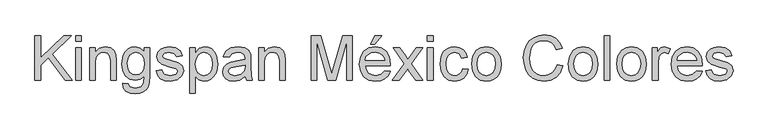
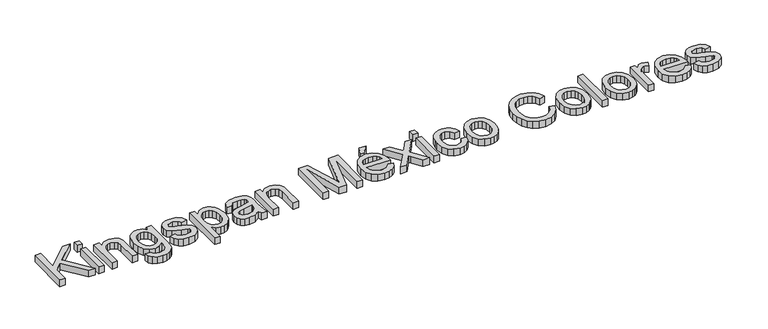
"""IFC4 building model written with IfcOpenShell, lengths in millimetres: proxy geometry, KIP-MX_ColourRange_Spanish : KIP-MX_ColourRange_English."""

from ifc_helpers import new_model, si_unit, origin, origin_with_axes, place, context, project, spatial, polyline, outline, extrude, source, transform, mapped, element, save


def generic_models_b1469a46(model_context):
    return source(origin(), model_context, "Body", "SweptSolid", [
        extrude(outline(polyline([(-1167.8046055, 2278.480545), (-1167.8046055, 2429.1650102), (-1148.9690473, 2429.1650102), (-1148.9690473, 2355.4046702), (-1071.7138283, 2429.1650102), (-1045.3734775, 2429.1650102), (-1110.2310732, 2367.2136822), (-1043.0190327, 2278.480545), (-1066.0484456, 2278.480545), (-1123.5851897, 2354.4849652), (-1148.9690473, 2330.2783299), (-1148.9690473, 2278.480545), (-1167.8046055, 2278.480545)])), origin_with_axes(), (0.0, 0.0, 1.0), 25.0),
        extrude(outline(polyline([(-1031.2468089, 2410.3294521), (-1031.2468089, 2429.1650102), (-1012.4112507, 2429.1650102), (-1012.4112507, 2410.3294521), (-1031.2468089, 2410.3294521)])), origin_with_axes(), (0.0, 0.0, 1.0), 25.0),
        extrude(outline(polyline([(-1031.2468089, 2278.480545), (-1031.2468089, 2389.1394492), (-1012.4112507, 2389.1394492), (-1012.4112507, 2278.480545), (-1031.2468089, 2278.480545)])), origin_with_axes(), (0.0, 0.0, 1.0), 25.0),
        extrude(outline(polyline([(-984.1579135, 2278.480545), (-984.1579135, 2389.1394492), (-965.3223553, 2389.1394492), (-965.3223553, 2373.6884054), (-950.9197752, 2387.0425218), (-931.2564826, 2391.4938939), (-913.4693881, 2387.9070445), (-901.3292823, 2378.4892654), (-895.6822937, 2364.6385083), (-894.6890123, 2346.4283495), (-894.6890123, 2278.480545), (-913.5245704, 2278.480545), (-913.5245704, 2343.8899637), (-915.6950742, 2360.5550181), (-923.3654138, 2369.3657919), (-936.2964659, 2372.6583358), (-947.3283273, 2370.8097287), (-956.7323108, 2365.2639077), (-963.1748442, 2354.5493446), (-965.3223553, 2337.1945114), (-965.3223553, 2278.480545), (-984.1579135, 2278.480545)])), origin_with_axes(), (0.0, 0.0, 1.0), 25.0),
        extrude(outline(polyline([(-873.4990093, 2269.0627659), (-854.6634512, 2266.7083212), (-848.5566101, 2256.7755073), (-830.2728749, 2252.5816525), (-810.9958584, 2257.3273303), (-801.7988085, 2270.6446585), (-800.5112215, 2292.6072136), (-813.7733674, 2282.0122122), (-829.9417811, 2278.480545), (-849.3613519, 2282.5916263), (-863.842107, 2294.9248702), (-872.8506173, 2313.0062703), (-875.8534541, 2334.3618201), (-870.4639829, 2363.5532564), (-863.8696981, 2375.4036552), (-854.8657863, 2384.2098304), (-843.7603486, 2389.672878), (-830.8614861, 2391.4938939), (-814.058476, 2387.3736156), (-800.5112215, 2375.0127805), (-800.5112215, 2389.1394492), (-781.6756634, 2389.1394492), (-781.6756634, 2293.600495), (-782.9632503, 2271.5413709), (-786.8260113, 2257.0146306), (-793.4800769, 2247.3807208), (-803.1415778, 2240.0000883), (-815.5989818, 2235.3095929), (-830.6407569, 2233.7460944), (-848.1657355, 2235.9487878), (-861.9659088, 2242.5568682), (-870.8180693, 2253.5887295), (-873.4990093, 2269.0627659)]), holes=[polyline([(-857.017896, 2335.6494071), (-855.0083406, 2318.3727489), (-848.9796744, 2306.4947589), (-839.9159817, 2299.6107671), (-828.8013469, 2297.3161032), (-817.7694856, 2299.5969715), (-808.6598077, 2306.4395766), (-802.5483681, 2318.1658152), (-800.5112215, 2335.0975841), (-802.6081489, 2351.4269461), (-808.898931, 2363.1853744), (-818.1419661, 2370.2900954), (-829.0956525, 2372.6583358), (-839.8516024, 2370.3268836), (-848.8693098, 2363.3325272), (-854.9807494, 2351.7488429), (-857.017896, 2335.6494071)])]), origin_with_axes(), (0.0, 0.0, 1.0), 25.0),
        extrude(outline(polyline([(-760.4856604, 2311.4427718), (-741.6501023, 2313.7972165), (-738.6794552, 2305.7406008), (-732.931299, 2299.8177007), (-712.9553067, 2294.9616584), (-693.7518665, 2299.4130305), (-687.4978726, 2309.8608792), (-689.0705681, 2314.6617392), (-693.7886547, 2318.3221651), (-713.1760358, 2323.6932422), (-741.5397377, 2332.9086862), (-753.9189668, 2343.6692345), (-758.1312157, 2358.8627609), (-754.7467013, 2372.8974591), (-745.5128632, 2383.6212192), (-733.5383043, 2389.1946315), (-717.3331024, 2391.4938939), (-694.4140541, 2387.7966799), (-679.8459271, 2377.7902896), (-673.371204, 2360.8861119), (-692.2067621, 2358.5316672), (-699.2884905, 2368.9243335), (-715.8615744, 2372.6583358), (-733.8877922, 2369.0898804), (-739.2956575, 2360.7757473), (-737.0515773, 2355.2943056), (-730.0250312, 2351.1372391), (-713.8014352, 2347.1273253), (-686.1551033, 2338.2613692), (-673.3160217, 2328.2181908), (-668.6623144, 2311.847442), (-674.1253621, 2293.8212242), (-689.8891056, 2280.7430193), (-713.212824, 2276.1261002), (-732.2047321, 2278.3517863), (-746.0646862, 2285.0288445), (-755.3169184, 2296.0836985), (-760.4856604, 2311.4427718)])), origin_with_axes(), (0.0, 0.0, 1.0), 25.0),
        extrude(outline(polyline([(-647.4723115, 2236.1005392), (-647.4723115, 2389.1394492), (-628.6367534, 2389.1394492), (-628.6367534, 2370.671773), (-615.6137307, 2386.2883637), (-598.0289714, 2391.4938939), (-585.2910573, 2389.672878), (-574.1534299, 2384.2098304), (-565.0851387, 2375.4358448), (-558.5552333, 2363.6820151), (-553.2945207, 2334.6561257), (-554.7798443, 2318.5474928), (-559.235815, 2304.1403142), (-566.5198785, 2292.1657552), (-576.4894805, 2283.3549814), (-588.100756, 2277.9333205), (-600.3098397, 2276.1261002), (-616.6989826, 2280.9637485), (-628.6367534, 2293.1958248), (-628.6367534, 2236.1005392), (-647.4723115, 2236.1005392)]), holes=[polyline([(-628.6367534, 2332.9270803), (-626.5996068, 2316.0412967), (-620.4881672, 2304.2322847), (-611.4704598, 2297.279315), (-600.7145099, 2294.9616584), (-589.7838161, 2297.3620884), (-580.5361825, 2304.5633785), (-574.2316048, 2316.8046519), (-572.1300789, 2334.3250319), (-574.181021, 2351.118845), (-580.3338474, 2363.0934039), (-589.3377592, 2370.2671028), (-599.9419577, 2372.6583358), (-610.587543, 2370.1153515), (-619.9363442, 2362.4863986), (-626.4616511, 2350.0106004), (-628.6367534, 2332.9270803)])]), origin_with_axes(), (0.0, 0.0, 1.0), 25.0),
        extrude(outline(polyline([(-461.4711747, 2292.6072136), (-479.7365158, 2279.8417084), (-499.9148432, 2276.1261002), (-515.6555941, 2278.3609834), (-527.2668696, 2285.0656327), (-534.4267729, 2295.2467669), (-536.8134074, 2307.9111046), (-533.2081638, 2322.8103254), (-523.7352024, 2333.6260561), (-510.5466329, 2339.8064736), (-494.2494605, 2342.639165), (-461.5815393, 2349.1138881), (-461.4711747, 2353.3077428), (-462.7679588, 2361.7138464), (-466.6583109, 2367.2136822), (-475.3587201, 2371.2971724), (-487.4804318, 2372.6583358), (-506.5367192, 2369.0346981), (-515.6234044, 2356.1772224), (-534.4589626, 2358.5316672), (-526.3103764, 2376.9257669), (-509.9028394, 2387.7047094), (-485.0524106, 2391.4938939), (-462.2253328, 2388.1461678), (-449.3310689, 2379.7400642), (-443.5553216, 2366.9561648), (-442.6356166, 2350.4750515), (-442.6356166, 2327.0409684), (-441.6791234, 2294.3178649), (-437.9267271, 2278.480545), (-456.7622852, 2278.480545), (-461.4711747, 2292.6072136)]), holes=[polyline([(-461.4711747, 2330.2783299), (-491.8582276, 2324.5025826), (-508.0634294, 2321.449162), (-515.4026752, 2316.4827551), (-517.9778492, 2309.2354798), (-512.3676488, 2299.0451485), (-495.9049295, 2294.9616584), (-476.8486421, 2299.4682128), (-464.5613835, 2310.375914), (-461.5815393, 2324.944041), (-461.4711747, 2330.2783299)])]), origin_with_axes(), (0.0, 0.0, 1.0), 25.0),
        extrude(outline(polyline([(-416.7367241, 2278.480545), (-416.7367241, 2389.1394492), (-397.901166, 2389.1394492), (-397.901166, 2373.6884054), (-383.4985859, 2387.0425218), (-363.8352932, 2391.4938939), (-346.0481988, 2387.9070445), (-333.9080929, 2378.4892654), (-328.2611043, 2364.6385083), (-327.2678229, 2346.4283495), (-327.2678229, 2278.480545), (-346.1033811, 2278.480545), (-346.1033811, 2343.8899637), (-348.2738848, 2360.5550181), (-355.9442244, 2369.3657919), (-368.8752766, 2372.6583358), (-379.9071379, 2370.8097287), (-389.3111214, 2365.2639077), (-395.7536548, 2354.5493446), (-397.901166, 2337.1945114), (-397.901166, 2278.480545), (-416.7367241, 2278.480545)])), origin_with_axes(), (0.0, 0.0, 1.0), 25.0),
        extrude(outline(polyline([(-240.1533665, 2278.480545), (-240.1533665, 2429.1650102), (-207.7429627, 2429.1650102), (-176.9144515, 2322.9574782), (-170.6972458, 2300.7741939), (-163.9650053, 2324.7968882), (-133.6515288, 2429.1650102), (-101.2411251, 2429.1650102), (-101.2411251, 2278.480545), (-120.0766832, 2278.480545), (-120.0766832, 2410.3294521), (-157.9317405, 2278.480545), (-183.462751, 2278.480545), (-221.3178083, 2410.3294521), (-221.3178083, 2278.480545), (-240.1533665, 2278.480545)])), origin_with_axes(), (0.0, 0.0, 1.0), 25.0),
        extrude(outline(polyline([(6.8426051, 2311.4427718), (25.3102813, 2309.088327), (18.6562157, 2295.1731905), (8.0382216, 2284.7713271), (-6.3045777, 2278.287407), (-24.1330589, 2276.1261002), (-46.2335697, 2279.855504), (-63.238915, 2291.0437151), (-74.0822368, 2308.9641668), (-77.6966774, 2332.8902921), (-74.0454486, 2357.6211592), (-63.0917622, 2376.1164265), (-46.3163432, 2387.6495271), (-25.1999167, 2391.4938939), (-4.7410792, 2387.6587241), (11.6066769, 2376.1532147), (22.3258386, 2357.6947356), (25.8988925, 2333.0006567), (25.7885279, 2327.9238852), (-58.8611192, 2327.9238852), (-55.600765, 2313.8248077), (-48.0269945, 2303.4597325), (-37.0963007, 2297.0861769), (-23.7651769, 2294.9616584), (-5.2975007, 2298.8979957), (6.8426051, 2311.4427718)]), holes=[polyline([(-58.8611192, 2346.7594433), (7.0633343, 2346.7594433), (4.5157515, 2356.7106513), (-0.4782466, 2363.8291679), (-11.4595241, 2370.4510438), (-25.2734931, 2372.6583358), (-37.9700204, 2370.8971007), (-48.4684529, 2365.6133956), (-55.7663119, 2357.3774374), (-58.8611192, 2346.7594433)])]), origin_with_axes(), (0.0, 0.0, 1.0), 25.0),
        extrude(outline(polyline([(-40.0255611, 2400.911673), (-25.8988925, 2429.1650102), (-2.3544448, 2429.1650102), (-25.8988925, 2400.911673), (-40.0255611, 2400.911673)])), origin_with_axes(), (0.0, 0.0, 1.0), 25.0),
        extrude(outline(polyline([(32.9622268, 2278.480545), (73.208517, 2334.1043027), (35.3166715, 2389.1394492), (57.9782024, 2389.1394492), (76.2619376, 2362.6519455), (84.7967999, 2350.1439577), (92.191228, 2360.3710771), (113.0133489, 2389.1394492), (135.6748798, 2389.1394492), (95.8700479, 2334.1043027), (134.2033518, 2278.480545), (111.5418209, 2278.480545), (88.4756198, 2311.9210184), (84.2449769, 2318.0278595), (55.6237577, 2278.480545), (32.9622268, 2278.480545)])), origin_with_axes(), (0.0, 0.0, 1.0), 25.0),
        extrude(outline(polyline([(150.6844652, 2410.3294521), (150.6844652, 2429.1650102), (169.5200234, 2429.1650102), (169.5200234, 2410.3294521), (150.6844652, 2410.3294521)])), origin_with_axes(), (0.0, 0.0, 1.0), 25.0),
        extrude(outline(polyline([(150.6844652, 2278.480545), (150.6844652, 2389.1394492), (169.5200234, 2389.1394492), (169.5200234, 2278.480545), (150.6844652, 2278.480545)])), origin_with_axes(), (0.0, 0.0, 1.0), 25.0),
        extrude(outline(polyline([(268.4067037, 2318.5061061), (287.2422618, 2316.1516613), (281.9907464, 2299.399235), (272.1223118, 2286.7394958), (258.5658603, 2278.7794491), (242.2502938, 2276.1261002), (222.2145207, 2279.8279128), (206.5473462, 2290.9333505), (196.4351898, 2308.9549698), (193.0644711, 2333.4053269), (194.5038094, 2350.1669503), (198.8218243, 2364.6936906), (206.0874937, 2376.4245277), (216.3697955, 2384.7984416), (228.6708497, 2389.8200308), (241.9927764, 2391.4938939), (257.9082712, 2389.1946315), (270.6323898, 2382.296844), (279.7604618, 2371.1684137), (284.8878171, 2356.1772224), (266.0522589, 2353.8227776), (257.3150615, 2367.9310521), (242.1399292, 2372.6583358), (229.9676337, 2370.3314821), (220.3061328, 2363.3509213), (214.0015551, 2351.3395741), (211.9000292, 2333.9203617), (213.9555699, 2316.2666244), (220.1221918, 2304.2138906), (229.6089488, 2297.2747164), (241.6248944, 2294.9616584), (251.3783658, 2296.4055952), (259.3752007, 2300.7374057), (265.1923347, 2308.0674545), (268.4067037, 2318.5061061)])), origin_with_axes(), (0.0, 0.0, 1.0), 25.0),
        extrude(outline(polyline([(299.0144857, 2333.8099971), (303.0887788, 2360.4906388), (315.3116581, 2379.2434235), (330.413214, 2388.4312763), (348.494614, 2391.4938939), (368.2820668, 2387.7644902), (384.0871971, 2376.576279), (394.4476738, 2358.8121772), (397.901166, 2335.3551015), (396.3744557, 2316.3264053), (391.7943249, 2301.8410517), (384.2941307, 2290.9931314), (374.0072304, 2282.8767348), (361.7889496, 2277.8137589), (348.494614, 2276.1261002), (328.4680379, 2279.8417084), (312.6813018, 2290.9885328), (302.4311897, 2309.1251152), (299.0144857, 2333.8099971)]), holes=[polyline([(317.8500438, 2333.8467853), (320.0297447, 2316.8000533), (326.5688471, 2304.655349), (336.4096905, 2297.385081), (348.494614, 2294.9616584), (360.5243553, 2297.3988766), (370.3468045, 2304.7105313), (376.885907, 2317.016184), (379.0656078, 2334.4353965), (376.8721114, 2350.9854877), (370.2916222, 2362.9646452), (360.4553774, 2370.2349131), (348.494614, 2372.6583358), (336.4096905, 2370.2441102), (326.5688471, 2363.0014334), (320.0297447, 2350.8843202), (317.8500438, 2333.8467853)])]), origin_with_axes(), (0.0, 0.0, 1.0), 25.0),
        extrude(outline(polyline([(586.2567475, 2332.0441635), (605.0923057, 2327.1881212), (596.4010935, 2305.2393616), (582.7618686, 2289.2043052), (564.8460154, 2279.3956515), (543.3249187, 2276.1261002), (521.4773267, 2278.6001067), (504.1270921, 2286.0221259), (490.828158, 2298.1346406), (481.1344674, 2314.6801333), (475.2161658, 2334.1318938), (473.2433986, 2354.9632118), (475.4736832, 2376.934964), (482.164537, 2395.9084779), (492.9664721, 2411.2813467), (507.5300005, 2422.4511638), (524.8020602, 2429.2523822), (543.7295889, 2431.519455), (564.3815644, 2428.5855961), (581.4558875, 2419.7840194), (594.4191293, 2405.6573507), (602.7378609, 2386.7482162), (583.9023027, 2382.2600558), (577.3723973, 2395.9958498), (568.4512589, 2405.4182274), (557.028523, 2410.8674795), (542.9938249, 2412.6838968), (526.8162141, 2410.6697429), (513.5264771, 2404.6272811), (503.4419119, 2395.191108), (496.8798168, 2382.9958198), (492.0789567, 2355.0), (493.499901, 2337.5991816), (497.7627336, 2322.552808), (505.028403, 2310.4356948), (515.4578575, 2301.8226576), (527.9612469, 2296.6769082), (541.4487205, 2294.9616584), (557.1710773, 2297.2977091), (570.2722748, 2304.3058611), (580.163702, 2315.912538), (586.2567475, 2332.0441635)])), origin_with_axes(), (0.0, 0.0, 1.0), 25.0),
        extrude(outline(polyline([(623.9278638, 2333.8099971), (628.0021569, 2360.4906388), (640.2250362, 2379.2434235), (655.3265921, 2388.4312763), (673.4079922, 2391.4938939), (693.195445, 2387.7644902), (709.0005752, 2376.576279), (719.3610519, 2358.8121772), (722.8145441, 2335.3551015), (721.2878338, 2316.3264053), (716.707703, 2301.8410517), (709.2075088, 2290.9931314), (698.9206085, 2282.8767348), (686.7023278, 2277.8137589), (673.4079922, 2276.1261002), (653.3814161, 2279.8417084), (637.5946799, 2290.9885328), (627.3445679, 2309.1251152), (623.9278638, 2333.8099971)]), holes=[polyline([(642.763422, 2333.8467853), (644.9431228, 2316.8000533), (651.4822253, 2304.655349), (661.3230686, 2297.385081), (673.4079922, 2294.9616584), (685.4377334, 2297.3988766), (695.2601827, 2304.7105313), (701.7992851, 2317.016184), (703.978986, 2334.4353965), (701.7854896, 2350.9854877), (695.2050004, 2362.9646452), (685.3687555, 2370.2349131), (673.4079922, 2372.6583358), (661.3230686, 2370.2441102), (651.4822253, 2363.0014334), (644.9431228, 2350.8843202), (642.763422, 2333.8467853)])]), origin_with_axes(), (0.0, 0.0, 1.0), 25.0),
        extrude(outline(polyline([(744.004547, 2278.480545), (744.004547, 2429.1650102), (762.8401052, 2429.1650102), (762.8401052, 2278.480545), (744.004547, 2278.480545)])), origin_with_axes(), (0.0, 0.0, 1.0), 25.0),
        extrude(outline(polyline([(786.3845529, 2333.8099971), (790.458846, 2360.4906388), (802.6817253, 2379.2434235), (817.7832812, 2388.4312763), (835.8646812, 2391.4938939), (855.6521341, 2387.7644902), (871.4572643, 2376.576279), (881.817741, 2358.8121772), (885.2712332, 2335.3551015), (883.7445229, 2316.3264053), (879.1643921, 2301.8410517), (871.6641979, 2290.9931314), (861.3772976, 2282.8767348), (849.1590168, 2277.8137589), (835.8646812, 2276.1261002), (815.8381051, 2279.8417084), (800.051369, 2290.9885328), (789.8012569, 2309.1251152), (786.3845529, 2333.8099971)]), holes=[polyline([(805.220111, 2333.8467853), (807.3998119, 2316.8000533), (813.9389143, 2304.655349), (823.7797577, 2297.385081), (835.8646812, 2294.9616584), (847.8944225, 2297.3988766), (857.7168718, 2304.7105313), (864.2559742, 2317.016184), (866.435675, 2334.4353965), (864.2421786, 2350.9854877), (857.6616895, 2362.9646452), (847.8254446, 2370.2349131), (835.8646812, 2372.6583358), (823.7797577, 2370.2441102), (813.9389143, 2363.0014334), (807.3998119, 2350.8843202), (805.220111, 2333.8467853)])]), origin_with_axes(), (0.0, 0.0, 1.0), 25.0),
        extrude(outline(polyline([(906.4612361, 2278.480545), (906.4612361, 2389.1394492), (922.9423495, 2389.1394492), (922.9423495, 2372.7687004), (934.6409969, 2387.8518622), (946.4132208, 2391.4938939), (965.3223553, 2385.6813584), (959.0315732, 2368.7955748), (945.7878214, 2372.6583358), (935.1376376, 2368.9427276), (928.3502148, 2358.6420318), (925.2967943, 2336.6426884), (925.2967943, 2278.480545), (906.4612361, 2278.480545)])), origin_with_axes(), (0.0, 0.0, 1.0), 25.0),
        extrude(outline(polyline([(1054.5705274, 2311.4427718), (1073.0382035, 2309.088327), (1066.3841379, 2295.1731905), (1055.7661439, 2284.7713271), (1041.4233446, 2278.287407), (1023.5948634, 2276.1261002), (1001.4943525, 2279.855504), (984.4890073, 2291.0437151), (973.6456855, 2308.9641668), (970.0312449, 2332.8902921), (973.6824737, 2357.6211592), (984.6361601, 2376.1164265), (1001.4115791, 2387.6495271), (1022.5280056, 2391.4938939), (1042.9868431, 2387.6587241), (1059.3345992, 2376.1532147), (1070.0537608, 2357.6947356), (1073.6268147, 2333.0006567), (1073.5164501, 2327.9238852), (988.866803, 2327.9238852), (992.1271572, 2313.8248077), (999.7009278, 2303.4597325), (1010.6316216, 2297.0861769), (1023.9627454, 2294.9616584), (1042.4304215, 2298.8979957), (1054.5705274, 2311.4427718)]), holes=[polyline([(988.866803, 2346.7594433), (1054.7912566, 2346.7594433), (1052.2436738, 2356.7106513), (1047.2496757, 2363.8291679), (1036.2683981, 2370.4510438), (1022.4544292, 2372.6583358), (1009.7579018, 2370.8971007), (999.2594694, 2365.6133956), (991.9616103, 2357.3774374), (988.866803, 2346.7594433)])]), origin_with_axes(), (0.0, 0.0, 1.0), 25.0),
        extrude(outline(polyline([(1085.3990386, 2311.4427718), (1104.2345967, 2313.7972165), (1107.2052438, 2305.7406008), (1112.9534, 2299.8177007), (1132.9293923, 2294.9616584), (1152.1328325, 2299.4130305), (1158.3868264, 2309.8608792), (1156.8141309, 2314.6617392), (1152.0960443, 2318.3221651), (1132.7086631, 2323.6932422), (1104.3449613, 2332.9086862), (1091.9657322, 2343.6692345), (1087.7534833, 2358.8627609), (1091.1379977, 2372.8974591), (1100.3718358, 2383.6212192), (1112.3463947, 2389.1946315), (1128.5515966, 2391.4938939), (1151.4706449, 2387.7966799), (1166.0387719, 2377.7902896), (1172.513495, 2360.8861119), (1153.6779369, 2358.5316672), (1146.5962085, 2368.9243335), (1130.0231246, 2372.6583358), (1111.9969068, 2369.0898804), (1106.5890415, 2360.7757473), (1108.8331217, 2355.2943056), (1115.8596678, 2351.1372391), (1132.0832638, 2347.1273253), (1159.7295957, 2338.2613692), (1172.5686773, 2328.2181908), (1177.2223846, 2311.847442), (1171.7593369, 2293.8212242), (1155.9955934, 2280.7430193), (1132.6718749, 2276.1261002), (1113.6799669, 2278.3517863), (1099.8200128, 2285.0288445), (1090.5677806, 2296.0836985), (1085.3990386, 2311.4427718)])), origin_with_axes(), (0.0, 0.0, 1.0), 25.0),
    ])


if __name__ == "__main__":
    model = new_model("IFC4")
    model_context = context("Model", 3, world=origin())
    ifc_project = project(units=[si_unit("LENGTHUNIT", "METRE", prefix="MILLI")], contexts=[model_context])
    site = spatial("IfcSite", under=ifc_project)
    building = spatial("IfcBuilding", under=site)
    placement = place(None, origin())
    generic_models_shape = generic_models_b1469a46(model_context)
    element("IfcBuildingElementProxy", 1, Name="KIP-MX_ColourRange_Spanish : KIP-MX_ColourRange_English", ObjectType="KIP-MX_ColourRange_Spanish : KIP-MX_ColourRange_English", at=placement, inside=building, context=model_context, shape_type="MappedRepresentation", body=[
        mapped(generic_models_shape, transform((0.0, 0.0, 0.0), x_axis=(1.0, 0.0, 0.0), y_axis=(0.0, 1.0, 0.0), z_axis=(0.0, 0.0, 1.0))),
    ])
    save(model, "model.ifc")
